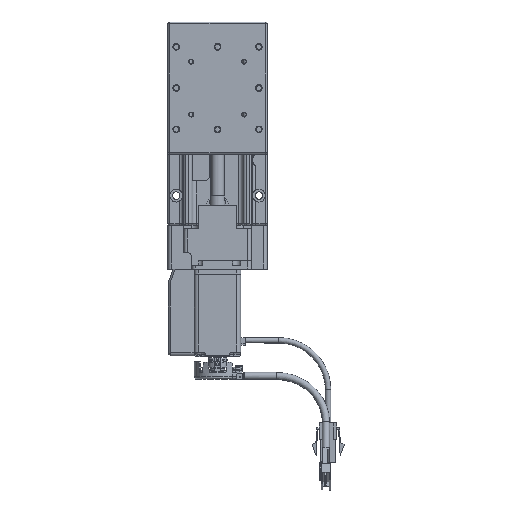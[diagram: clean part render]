
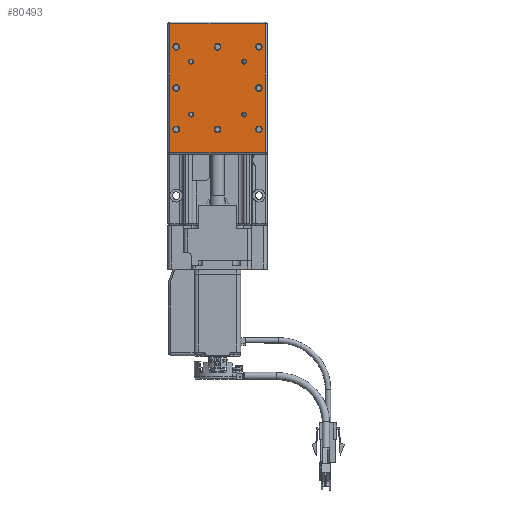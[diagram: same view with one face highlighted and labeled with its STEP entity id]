
A CAD part, top view. The second image highlights one B-rep face of the part: STEP entity #80493.
In plain terms, the highlighted planar face has unit normal (0, 0, 1) as drawn and (0, 1, 0) by its records, which use the part's own axes.
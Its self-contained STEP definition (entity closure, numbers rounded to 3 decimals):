
#1344=LINE('',#122717,#10685);
#1345=LINE('',#122720,#10686);
#1346=LINE('',#122722,#10687);
#1347=LINE('',#122724,#10688);
#10685=VECTOR('',#101171,1000.);
#10686=VECTOR('',#101172,1000.);
#10687=VECTOR('',#101173,1000.);
#10688=VECTOR('',#101174,1000.);
#19973=PLANE('',#94901);
#23439=ORIENTED_EDGE('',*,*,#47161,.F.);
#23440=ORIENTED_EDGE('',*,*,#47164,.F.);
#23441=ORIENTED_EDGE('',*,*,#47167,.F.);
#23442=ORIENTED_EDGE('',*,*,#47170,.F.);
#23443=ORIENTED_EDGE('',*,*,#47173,.F.);
#23444=ORIENTED_EDGE('',*,*,#47176,.F.);
#23445=ORIENTED_EDGE('',*,*,#47179,.F.);
#23446=ORIENTED_EDGE('',*,*,#47182,.F.);
#23447=ORIENTED_EDGE('',*,*,#47185,.F.);
#23448=ORIENTED_EDGE('',*,*,#47188,.F.);
#23449=ORIENTED_EDGE('',*,*,#47191,.F.);
#23450=ORIENTED_EDGE('',*,*,#47194,.F.);
#23451=ORIENTED_EDGE('',*,*,#47278,.T.);
#23452=ORIENTED_EDGE('',*,*,#47279,.T.);
#23453=ORIENTED_EDGE('',*,*,#47280,.T.);
#23454=ORIENTED_EDGE('',*,*,#47281,.T.);
#47161=EDGE_CURVE('',#59113,#59113,#67149,.T.);
#47164=EDGE_CURVE('',#59116,#59116,#67152,.T.);
#47167=EDGE_CURVE('',#59119,#59119,#67155,.T.);
#47170=EDGE_CURVE('',#59122,#59122,#67158,.T.);
#47173=EDGE_CURVE('',#59125,#59125,#67161,.T.);
#47176=EDGE_CURVE('',#59128,#59128,#67164,.T.);
#47179=EDGE_CURVE('',#59131,#59131,#67167,.T.);
#47182=EDGE_CURVE('',#59134,#59134,#67170,.T.);
#47185=EDGE_CURVE('',#59137,#59137,#67173,.T.);
#47188=EDGE_CURVE('',#59140,#59140,#67176,.T.);
#47191=EDGE_CURVE('',#59143,#59143,#67179,.T.);
#47194=EDGE_CURVE('',#59146,#59146,#67182,.T.);
#47278=EDGE_CURVE('',#59213,#59214,#1344,.T.);
#47279=EDGE_CURVE('',#59214,#59215,#1345,.T.);
#47280=EDGE_CURVE('',#59215,#59216,#1346,.T.);
#47281=EDGE_CURVE('',#59216,#59213,#1347,.T.);
#59113=VERTEX_POINT('',#122455);
#59116=VERTEX_POINT('',#122463);
#59119=VERTEX_POINT('',#122471);
#59122=VERTEX_POINT('',#122479);
#59125=VERTEX_POINT('',#122487);
#59128=VERTEX_POINT('',#122495);
#59131=VERTEX_POINT('',#122503);
#59134=VERTEX_POINT('',#122511);
#59137=VERTEX_POINT('',#122519);
#59140=VERTEX_POINT('',#122527);
#59143=VERTEX_POINT('',#122535);
#59146=VERTEX_POINT('',#122543);
#59213=VERTEX_POINT('',#122718);
#59214=VERTEX_POINT('',#122719);
#59215=VERTEX_POINT('',#122721);
#59216=VERTEX_POINT('',#122723);
#67149=CIRCLE('',#94808,2.);
#67152=CIRCLE('',#94813,2.);
#67155=CIRCLE('',#94818,2.);
#67158=CIRCLE('',#94823,2.);
#67161=CIRCLE('',#94828,2.);
#67164=CIRCLE('',#94833,2.);
#67167=CIRCLE('',#94838,2.);
#67170=CIRCLE('',#94843,2.);
#67173=CIRCLE('',#94848,1.5);
#67176=CIRCLE('',#94853,1.5);
#67179=CIRCLE('',#94858,1.5);
#67182=CIRCLE('',#94863,1.5);
#69079=EDGE_LOOP('',(#23439));
#69080=EDGE_LOOP('',(#23440));
#69081=EDGE_LOOP('',(#23441));
#69082=EDGE_LOOP('',(#23442));
#69083=EDGE_LOOP('',(#23443));
#69084=EDGE_LOOP('',(#23444));
#69085=EDGE_LOOP('',(#23445));
#69086=EDGE_LOOP('',(#23446));
#69087=EDGE_LOOP('',(#23447));
#69088=EDGE_LOOP('',(#23448));
#69089=EDGE_LOOP('',(#23449));
#69090=EDGE_LOOP('',(#23450));
#69091=EDGE_LOOP('',(#23451,#23452,#23453,#23454));
#74371=FACE_BOUND('',#69079,.T.);
#74372=FACE_BOUND('',#69080,.T.);
#74373=FACE_BOUND('',#69081,.T.);
#74374=FACE_BOUND('',#69082,.T.);
#74375=FACE_BOUND('',#69083,.T.);
#74376=FACE_BOUND('',#69084,.T.);
#74377=FACE_BOUND('',#69085,.T.);
#74378=FACE_BOUND('',#69086,.T.);
#74379=FACE_BOUND('',#69087,.T.);
#74380=FACE_BOUND('',#69088,.T.);
#74381=FACE_BOUND('',#69089,.T.);
#74382=FACE_BOUND('',#69090,.T.);
#74383=FACE_BOUND('',#69091,.T.);
#80493=ADVANCED_FACE('',(#74371,#74372,#74373,#74374,#74375,#74376,#74377,
#74378,#74379,#74380,#74381,#74382,#74383),#19973,.F.);
#94808=AXIS2_PLACEMENT_3D('',#122454,#100914,#100915);
#94813=AXIS2_PLACEMENT_3D('',#122462,#100924,#100925);
#94818=AXIS2_PLACEMENT_3D('',#122470,#100934,#100935);
#94823=AXIS2_PLACEMENT_3D('',#122478,#100944,#100945);
#94828=AXIS2_PLACEMENT_3D('',#122486,#100954,#100955);
#94833=AXIS2_PLACEMENT_3D('',#122494,#100964,#100965);
#94838=AXIS2_PLACEMENT_3D('',#122502,#100974,#100975);
#94843=AXIS2_PLACEMENT_3D('',#122510,#100984,#100985);
#94848=AXIS2_PLACEMENT_3D('',#122518,#100994,#100995);
#94853=AXIS2_PLACEMENT_3D('',#122526,#101004,#101005);
#94858=AXIS2_PLACEMENT_3D('',#122534,#101014,#101015);
#94863=AXIS2_PLACEMENT_3D('',#122542,#101024,#101025);
#94901=AXIS2_PLACEMENT_3D('',#122716,#101169,#101170);
#100914=DIRECTION('',(0.,1.,0.));
#100915=DIRECTION('',(0.,0.,-1.));
#100924=DIRECTION('',(0.,1.,0.));
#100925=DIRECTION('',(0.,0.,-1.));
#100934=DIRECTION('',(0.,1.,0.));
#100935=DIRECTION('',(0.,0.,-1.));
#100944=DIRECTION('',(0.,1.,0.));
#100945=DIRECTION('',(0.,0.,-1.));
#100954=DIRECTION('',(0.,1.,0.));
#100955=DIRECTION('',(0.,0.,-1.));
#100964=DIRECTION('',(0.,1.,0.));
#100965=DIRECTION('',(0.,0.,-1.));
#100974=DIRECTION('',(0.,1.,0.));
#100975=DIRECTION('',(0.,0.,-1.));
#100984=DIRECTION('',(0.,1.,0.));
#100985=DIRECTION('',(0.,0.,-1.));
#100994=DIRECTION('',(0.,1.,0.));
#100995=DIRECTION('',(0.,0.,-1.));
#101004=DIRECTION('',(0.,1.,0.));
#101005=DIRECTION('',(0.,0.,-1.));
#101014=DIRECTION('',(0.,1.,0.));
#101015=DIRECTION('',(0.,0.,-1.));
#101024=DIRECTION('',(0.,1.,0.));
#101025=DIRECTION('',(0.,0.,-1.));
#101169=DIRECTION('',(0.,-1.,0.));
#101170=DIRECTION('',(0.,0.,1.));
#101171=DIRECTION('',(0.,0.,1.));
#101172=DIRECTION('',(1.,0.,0.));
#101173=DIRECTION('',(0.,0.,-1.));
#101174=DIRECTION('',(-1.,0.,0.));
#122454=CARTESIAN_POINT('',(25.,30.,62.862));
#122455=CARTESIAN_POINT('',(25.,30.,60.862));
#122462=CARTESIAN_POINT('',(25.,30.,37.862));
#122463=CARTESIAN_POINT('',(25.,30.,35.862));
#122470=CARTESIAN_POINT('',(25.,30.,12.862));
#122471=CARTESIAN_POINT('',(25.,30.,10.862));
#122478=CARTESIAN_POINT('',(-25.,30.,12.862));
#122479=CARTESIAN_POINT('',(-25.,30.,10.862));
#122486=CARTESIAN_POINT('',(-25.,30.,37.862));
#122487=CARTESIAN_POINT('',(-25.,30.,35.862));
#122494=CARTESIAN_POINT('',(-25.,30.,62.862));
#122495=CARTESIAN_POINT('',(-25.,30.,60.862));
#122502=CARTESIAN_POINT('',(0.,30.,62.862));
#122503=CARTESIAN_POINT('',(0.,30.,60.862));
#122510=CARTESIAN_POINT('',(0.,30.,12.862));
#122511=CARTESIAN_POINT('',(0.,30.,10.862));
#122518=CARTESIAN_POINT('',(16.,30.,53.862));
#122519=CARTESIAN_POINT('',(16.,30.,52.362));
#122526=CARTESIAN_POINT('',(16.,30.,21.862));
#122527=CARTESIAN_POINT('',(16.,30.,20.362));
#122534=CARTESIAN_POINT('',(-16.,30.,53.862));
#122535=CARTESIAN_POINT('',(-16.,30.,52.362));
#122542=CARTESIAN_POINT('',(-16.,30.,21.862));
#122543=CARTESIAN_POINT('',(-16.,30.,20.362));
#122716=CARTESIAN_POINT('',(20.,30.,-2.138));
#122717=CARTESIAN_POINT('',(-29.,30.,-2.138));
#122718=CARTESIAN_POINT('',(-29.,30.,-1.138));
#122719=CARTESIAN_POINT('',(-29.,30.,76.862));
#122720=CARTESIAN_POINT('',(30.,30.,76.862));
#122721=CARTESIAN_POINT('',(29.,30.,76.862));
#122722=CARTESIAN_POINT('',(29.,30.,-2.138));
#122723=CARTESIAN_POINT('',(29.,30.,-1.138));
#122724=CARTESIAN_POINT('',(20.,30.,-1.138));
